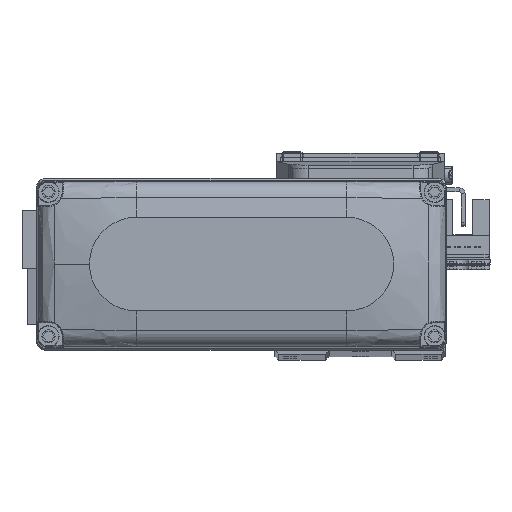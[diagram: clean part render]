
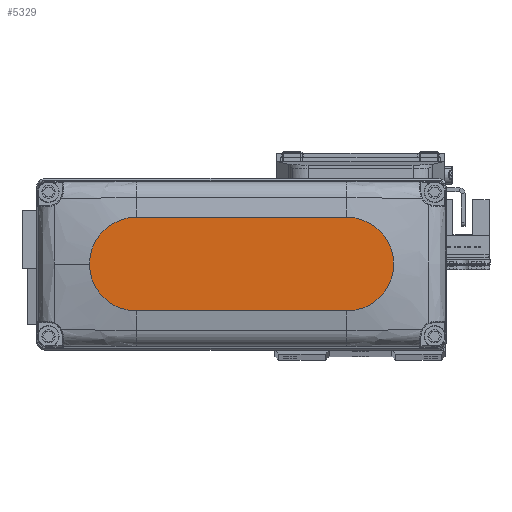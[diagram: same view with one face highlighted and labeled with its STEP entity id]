
A CAD part, top view. The second image highlights one B-rep face of the part: STEP entity #5329.
In plain terms, the highlighted planar face has unit normal (0, 0, 1).
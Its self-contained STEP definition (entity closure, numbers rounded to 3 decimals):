
#542 = VECTOR ( 'NONE', #37711, 1000. ) ;
#2825 = DIRECTION ( 'NONE',  ( 1., 0., 0. ) ) ;
#3369 = VERTEX_POINT ( 'NONE', #30709 ) ;
#3373 = DIRECTION ( 'NONE',  ( 0., 0., 1. ) ) ;
#4250 = CARTESIAN_POINT ( 'NONE',  ( -27., -12., 25. ) ) ;
#4996 = VECTOR ( 'NONE', #32281, 1000. ) ;
#5329 = ADVANCED_FACE ( 'NONE', ( #23326 ), #35745, .T. ) ;
#5481 = ORIENTED_EDGE ( 'NONE', *, *, #14502, .T. ) ;
#7416 = LINE ( 'NONE', #19841, #4996 ) ;
#7839 = CARTESIAN_POINT ( 'NONE',  ( 0., 0., 25. ) ) ;
#8338 = CARTESIAN_POINT ( 'NONE',  ( 27., 0., 25. ) ) ;
#10796 = VERTEX_POINT ( 'NONE', #22895 ) ;
#11294 = ORIENTED_EDGE ( 'NONE', *, *, #29902, .T. ) ;
#12337 = AXIS2_PLACEMENT_3D ( 'NONE', #7839, #20267, #32682 ) ;
#12835 = LINE ( 'NONE', #25283, #542 ) ;
#14502 = EDGE_CURVE ( 'NONE', #3369, #10796, #7416, .T. ) ;
#15788 = DIRECTION ( 'NONE',  ( 1., 0., 0. ) ) ;
#16006 = CIRCLE ( 'NONE', #38793, 12. ) ;
#16270 = CIRCLE ( 'NONE', #39038, 12. ) ;
#17613 = ORIENTED_EDGE ( 'NONE', *, *, #26808, .T. ) ;
#17624 = CARTESIAN_POINT ( 'NONE',  ( 39., 0., 25. ) ) ;
#18313 = CARTESIAN_POINT ( 'NONE',  ( -27., 0., 25. ) ) ;
#19348 = AXIS2_PLACEMENT_3D ( 'NONE', #18313, #30754, #2825 ) ;
#19428 = EDGE_LOOP ( 'NONE', ( #5481, #31235, #21182, #11294, #17613 ) ) ;
#19841 = CARTESIAN_POINT ( 'NONE',  ( -27., 12., 25. ) ) ;
#20267 = DIRECTION ( 'NONE',  ( 0., 0., 1. ) ) ;
#20769 = DIRECTION ( 'NONE',  ( 0., 0., 1. ) ) ;
#21182 = ORIENTED_EDGE ( 'NONE', *, *, #33342, .T. ) ;
#22274 = EDGE_CURVE ( 'NONE', #10796, #32094, #36912, .T. ) ;
#22895 = CARTESIAN_POINT ( 'NONE',  ( -27., 12., 25. ) ) ;
#23326 = FACE_OUTER_BOUND ( 'NONE', #19428, .T. ) ;
#24319 = VERTEX_POINT ( 'NONE', #17624 ) ;
#25283 = CARTESIAN_POINT ( 'NONE',  ( -27., -12., 25. ) ) ;
#26808 = EDGE_CURVE ( 'NONE', #24319, #3369, #16270, .T. ) ;
#29902 = EDGE_CURVE ( 'NONE', #36963, #24319, #16006, .T. ) ;
#30709 = CARTESIAN_POINT ( 'NONE',  ( 27., 12., 25. ) ) ;
#30754 = DIRECTION ( 'NONE',  ( 0., 0., 1. ) ) ;
#31235 = ORIENTED_EDGE ( 'NONE', *, *, #22274, .T. ) ;
#31300 = CARTESIAN_POINT ( 'NONE',  ( 27., 0., 25. ) ) ;
#32094 = VERTEX_POINT ( 'NONE', #4250 ) ;
#32281 = DIRECTION ( 'NONE',  ( -1., 0., 0. ) ) ;
#32682 = DIRECTION ( 'NONE',  ( 1., 0., 0. ) ) ;
#33188 = DIRECTION ( 'NONE',  ( 1., 0., 0. ) ) ;
#33342 = EDGE_CURVE ( 'NONE', #32094, #36963, #12835, .T. ) ;
#35745 = PLANE ( 'NONE',  #12337 ) ;
#36912 = CIRCLE ( 'NONE', #19348, 12. ) ;
#36963 = VERTEX_POINT ( 'NONE', #39076 ) ;
#37711 = DIRECTION ( 'NONE',  ( 1., 0., 0. ) ) ;
#38793 = AXIS2_PLACEMENT_3D ( 'NONE', #31300, #3373, #15788 ) ;
#39038 = AXIS2_PLACEMENT_3D ( 'NONE', #8338, #20769, #33188 ) ;
#39076 = CARTESIAN_POINT ( 'NONE',  ( 27., -12., 25. ) ) ;
